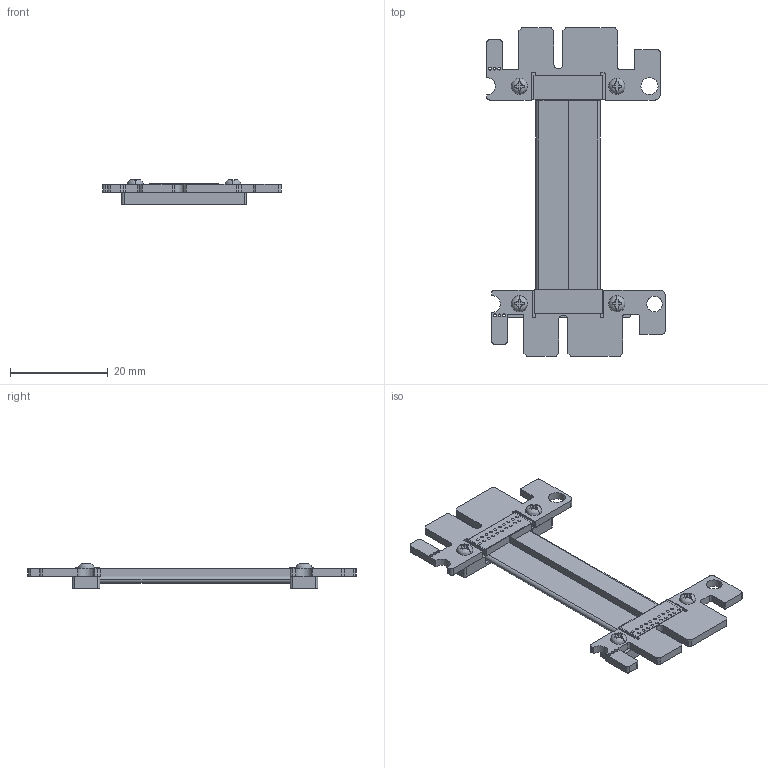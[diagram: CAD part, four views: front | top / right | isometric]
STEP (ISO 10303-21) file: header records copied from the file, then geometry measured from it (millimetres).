
FILE_DESCRIPTION(('Open CASCADE Model'),'2;1');
FILE_NAME('Open CASCADE Shape Model','2020-03-05T08:11:52',('Author'),( 'Open CASCADE'),'Open CASCADE STEP processor 6.8','Open CASCADE 6.8' ,'Unknown');
FILE_SCHEMA(('AUTOMOTIVE_DESIGN { 1 0 10303 214 1 1 1 1 }'));
Length unit declared in the file: millimetre
Products named in the file (9): PCB; Board; Open CASCADE STEP translator 6.8 7.1.1; Free-Models; Hexagon_nut_ISO_4032_(DIN_934)_-_M2_RGB9411503; G0033_RGB9411503; Tape14x5_RGB0; RP11S-PAD; cable20-43
Assembly tree (16 placements, depth 3):
  PCB
    Board
      Open CASCADE STEP translator 6.8 7.1.1
    Free-Models
      Hexagon_nut_ISO_4032_(DIN_934)_-_M2_RGB9411503  x4
      G0033_RGB9411503  x4
      Tape14x5_RGB0  x2
      RP11S-PAD  x2
      cable20-43
Bounding box: 36.54 x 67.24 x 5.1 mm (x, y, z)
Volume: 2352.9 mm3; surface area: 6454.4 mm2
Topology: 54 solids, 54 shells, 778 faces, 1822 edges, 1160 vertices
Faces by surface type: cylinder 351, plane 291, torus 80, cone 48, revolution 8
Full cylindrical faces by diameter (mm): 0.6 x46, 2.2 x8, 3.2 x1, 3.5 x1, 4.8 x4
Entity records: 19602 total; most frequent: DIRECTION 3450, CARTESIAN_POINT 3138, ORIENTED_EDGE 2860, AXIS2_PLACEMENT_3D 1430, EDGE_CURVE 1430, VERTEX_POINT 910, CIRCLE 800, FACE_BOUND 768
